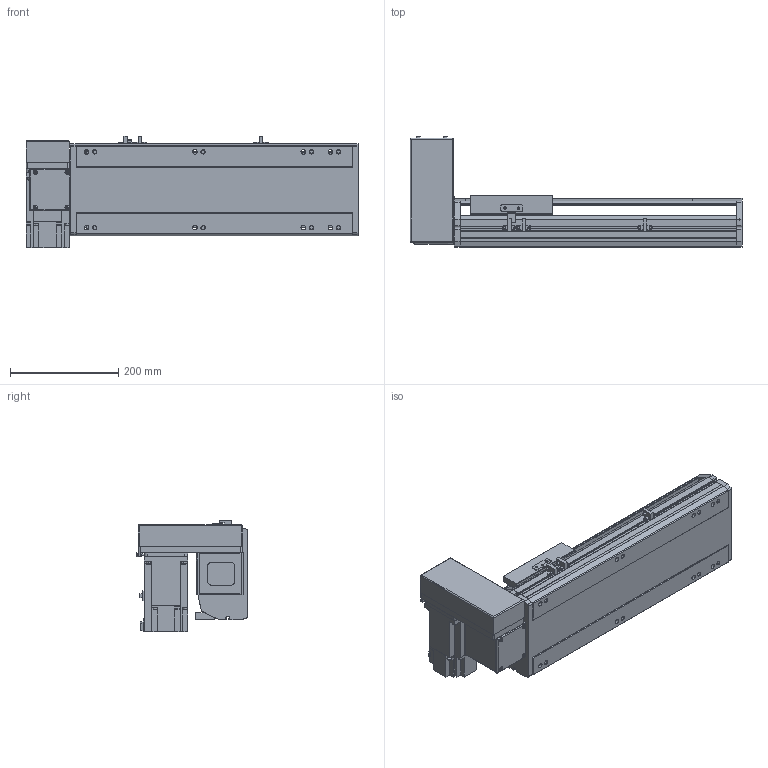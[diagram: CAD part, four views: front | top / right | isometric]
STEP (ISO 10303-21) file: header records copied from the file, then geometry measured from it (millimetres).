
FILE_DESCRIPTION( ( 'STEP AP214' ), '1' );
FILE_NAME( 'x:/temp/worker_5/temp/exporttempdir_3988_106_6zM7X/format_0/PBS170-P40-S250-RU-T75-C1-N(0).stp', '2022-06-08T05:55:21', ( 'License CC BY-ND 4.0' ), ( 'CADENAS' ), ' ', 'PARTsolutions', ' ' );
FILE_SCHEMA( ( 'AUTOMOTIVE_DESIGN { 1 0 10303 214 1 1 1 1 }' ) );
Length unit declared in the file: millimetre
Products named in the file (7): PBS170-P40-S250-RU-T75-C1-N(0); _PBS170-S250()_body; _PBS170T-RU_motors; _T75-p1; _PBS170_sliser; _PBS170_plant; _PBS170_sensor
Assembly tree (8 placements, depth 2):
  PBS170-P40-S250-RU-T75-C1-N(0)
    _PBS170-S250()_body
    _PBS170T-RU_motors
    _T75-p1
    _PBS170_sliser
    _PBS170_plant
    _PBS170_sensor  x3
Bounding box: 613 x 206 x 205.3 mm (x, y, z)
Volume: 5643707.8 mm3; surface area: 796494.5 mm2
Topology: 8 solids, 8 shells, 1018 faces, 2715 edges, 1770 vertices
Faces by surface type: plane 663, cylinder 307, cone 38, sphere 8, torus 2
Full cylindrical faces by diameter (mm): 3.242 x4, 4 x2, 4.4 x4, 4.5 x6, 4.917 x4, 6 x9, 6.647 x16, 7 x2, 7.5 x4, 8 x8, 8.5 x8, 10 x4, 10.5 x8, 11 x2, 30 x2, 40 x1, 70 x1
Entity records: 37172 total; most frequent: CARTESIAN_POINT 5549, DIRECTION 5020, ORIENTED_EDGE 4788, EDGE_CURVE 2394, AXIS2_PLACEMENT_3D 1717, VERTEX_POINT 1634, LINE 1586, VECTOR 1586
